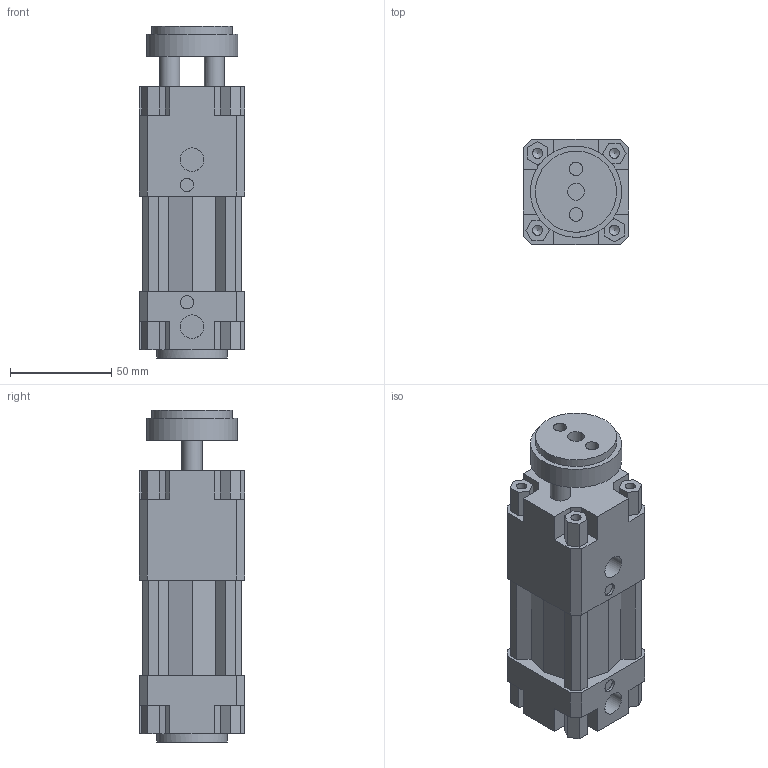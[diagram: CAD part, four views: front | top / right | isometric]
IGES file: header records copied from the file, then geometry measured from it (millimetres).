
Global section: file name: 134#_040_0000_01; native system: Autodesk Inventor 2014; preprocessor: unknown; author: A. Manieri; date: 20161006.164224; units: millimetre
Bounding box: 52 x 52 x 164 mm (x, y, z)
Volume: 321928.7 mm3; surface area: 70367.7 mm2
Topology: 2 solids, 2 shells, 180 faces, 492 edges, 336 vertices
Faces by surface type: bspline 180
